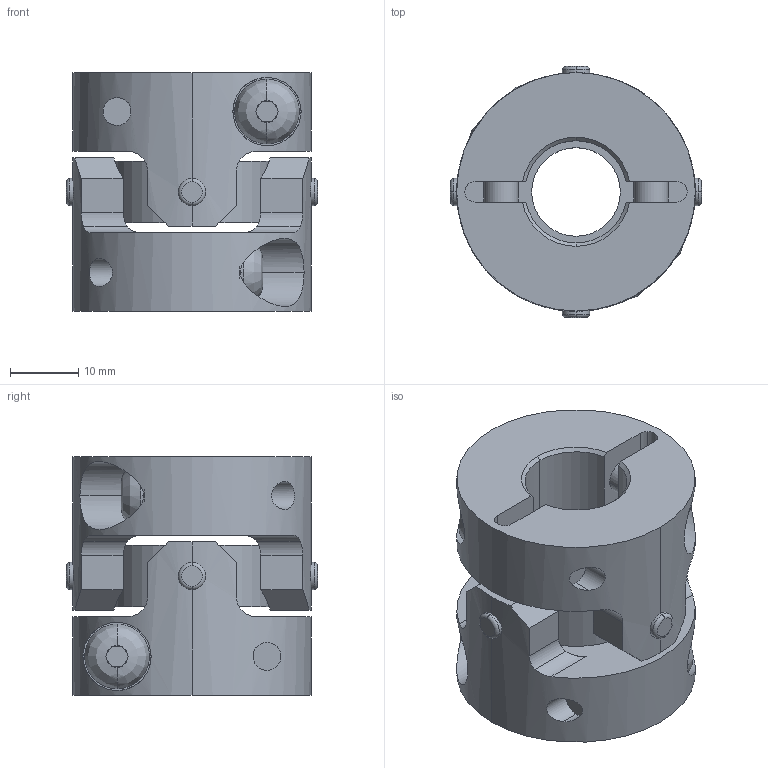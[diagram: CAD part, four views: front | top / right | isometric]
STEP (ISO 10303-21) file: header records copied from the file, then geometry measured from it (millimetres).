
FILE_DESCRIPTION((''),'2;1');
FILE_NAME('UA-35C-14×15.stp','2013-05-22T07:58:24',(''),(''),'AutoCAD STEP 2000i','AutoCAD 2000i',', , ');
FILE_SCHEMA(('CONFIG_CONTROL_DESIGN'));
Length unit declared in the file: millimetre
Products named in the file (8): UA-35C-14×14; 忣兜1; UA-3502-D14-1; BTN-M5; UA-3502-D14; UA-3502-D08-1; UA-3502-D08; UA35-SEN
Assembly tree (10 placements, depth 3):
  UA-35C-14×14
    忣兜1
    UA-3502-D14-1
      BTN-M5
    UA-3502-D14
      BTN-M5
    UA-3502-D08-1
      BTN-M5
    UA-3502-D08
      BTN-M5
    UA35-SEN
Bounding box: 36.83 x 36.83 x 35 mm (x, y, z)
Volume: 21702.7 mm3; surface area: 11463.7 mm2
Topology: 1 solids, 1 shells, 250 faces, 646 edges, 408 vertices
Faces by surface type: plane 122, cylinder 96, cone 16, bspline 8, torus 8
Entity records: 9675 total; most frequent: CARTESIAN_POINT 3379, DIRECTION 1296, ORIENTED_EDGE 1292, EDGE_CURVE 646, AXIS2_PLACEMENT_3D 501, VERTEX_POINT 408, VECTOR 294, LINE 294
